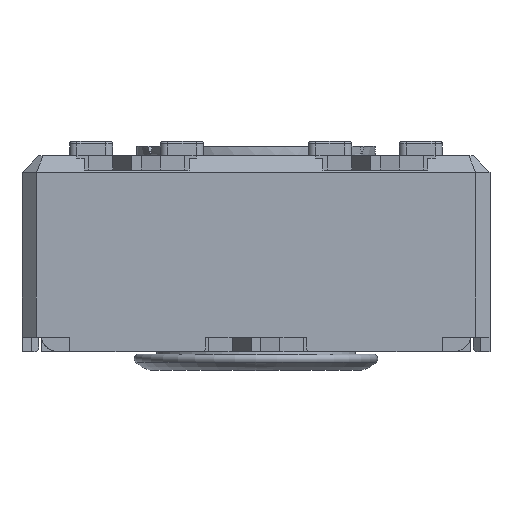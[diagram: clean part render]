
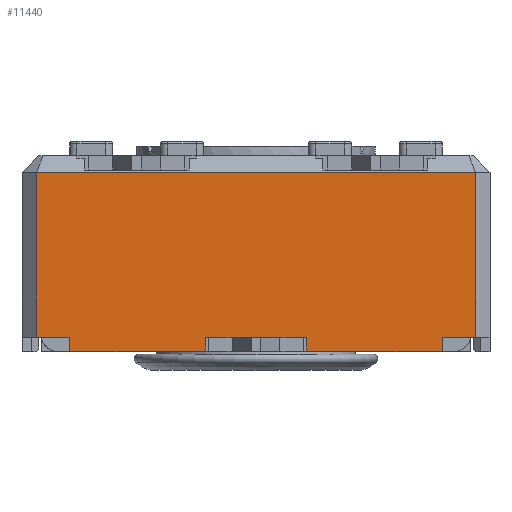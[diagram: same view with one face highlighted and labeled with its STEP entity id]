
A CAD part, front view. The second image highlights one B-rep face of the part: STEP entity #11440.
In plain terms, the highlighted planar face has unit normal (0, -1, 0).
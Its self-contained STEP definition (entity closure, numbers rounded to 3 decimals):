
#1021=FACE_OUTER_BOUND('',#1627,.T.);
#1627=EDGE_LOOP('',(#10196,#10197,#10198,#10199,#10200,#10201,#10202,#10203,
#10204,#10205,#10206,#10207,#10208,#10209,#10210,#10211));
#2140=LINE('',#16618,#3475);
#2241=LINE('',#16833,#3576);
#2247=LINE('',#16845,#3582);
#2255=LINE('',#16861,#3590);
#2261=LINE('',#16872,#3596);
#2453=LINE('',#17447,#3788);
#2459=LINE('',#17457,#3794);
#2462=LINE('',#17464,#3797);
#2475=LINE('',#17489,#3810);
#2531=LINE('',#17597,#3866);
#2533=LINE('',#17602,#3868);
#2535=LINE('',#17605,#3870);
#2537=LINE('',#17610,#3872);
#2719=LINE('',#18049,#4054);
#2962=LINE('',#18610,#4297);
#2964=LINE('',#18617,#4299);
#3475=VECTOR('',#13465,10.);
#3576=VECTOR('',#13644,10.);
#3582=VECTOR('',#13650,10.);
#3590=VECTOR('',#13660,10.);
#3596=VECTOR('',#13666,10.);
#3788=VECTOR('',#14188,10.);
#3794=VECTOR('',#14196,10.);
#3797=VECTOR('',#14203,10.);
#3810=VECTOR('',#14224,10.);
#3866=VECTOR('',#14324,10.);
#3868=VECTOR('',#14332,10.);
#3870=VECTOR('',#14336,10.);
#3872=VECTOR('',#14344,10.);
#4054=VECTOR('',#14762,10.);
#4297=VECTOR('',#15301,10.);
#4299=VECTOR('',#15313,10.);
#4755=VERTEX_POINT('',#16612);
#4756=VERTEX_POINT('',#16616);
#4831=VERTEX_POINT('',#16832);
#4836=VERTEX_POINT('',#16842);
#4837=VERTEX_POINT('',#16844);
#4843=VERTEX_POINT('',#16858);
#4844=VERTEX_POINT('',#16860);
#4849=VERTEX_POINT('',#16870);
#5012=VERTEX_POINT('',#17445);
#5013=VERTEX_POINT('',#17446);
#5016=VERTEX_POINT('',#17455);
#5017=VERTEX_POINT('',#17462);
#5018=VERTEX_POINT('',#17463);
#5026=VERTEX_POINT('',#17488);
#5170=VERTEX_POINT('',#18046);
#5171=VERTEX_POINT('',#18048);
#5987=EDGE_CURVE('',#4755,#4756,#2140,.T.);
#6094=EDGE_CURVE('',#4831,#4755,#2241,.T.);
#6100=EDGE_CURVE('',#4837,#4836,#2247,.T.);
#6108=EDGE_CURVE('',#4844,#4843,#2255,.T.);
#6114=EDGE_CURVE('',#4756,#4849,#2261,.T.);
#6383=EDGE_CURVE('',#5012,#5013,#2453,.T.);
#6389=EDGE_CURVE('',#5012,#5016,#2459,.T.);
#6392=EDGE_CURVE('',#5017,#5018,#2462,.T.);
#6405=EDGE_CURVE('',#5026,#5018,#2475,.T.);
#6461=EDGE_CURVE('',#4831,#5017,#2531,.T.);
#6463=EDGE_CURVE('',#4836,#5026,#2533,.T.);
#6465=EDGE_CURVE('',#4844,#5016,#2535,.T.);
#6467=EDGE_CURVE('',#4849,#5013,#2537,.T.);
#6682=EDGE_CURVE('',#5170,#5171,#2719,.T.);
#6961=EDGE_CURVE('',#5171,#4843,#2962,.T.);
#6963=EDGE_CURVE('',#5170,#4837,#2964,.T.);
#10196=ORIENTED_EDGE('',*,*,#6383,.F.);
#10197=ORIENTED_EDGE('',*,*,#6389,.T.);
#10198=ORIENTED_EDGE('',*,*,#6465,.F.);
#10199=ORIENTED_EDGE('',*,*,#6108,.T.);
#10200=ORIENTED_EDGE('',*,*,#6961,.F.);
#10201=ORIENTED_EDGE('',*,*,#6682,.F.);
#10202=ORIENTED_EDGE('',*,*,#6963,.T.);
#10203=ORIENTED_EDGE('',*,*,#6100,.T.);
#10204=ORIENTED_EDGE('',*,*,#6463,.T.);
#10205=ORIENTED_EDGE('',*,*,#6405,.T.);
#10206=ORIENTED_EDGE('',*,*,#6392,.F.);
#10207=ORIENTED_EDGE('',*,*,#6461,.F.);
#10208=ORIENTED_EDGE('',*,*,#6094,.T.);
#10209=ORIENTED_EDGE('',*,*,#5987,.T.);
#10210=ORIENTED_EDGE('',*,*,#6114,.T.);
#10211=ORIENTED_EDGE('',*,*,#6467,.T.);
#10675=PLANE('',#12300);
#11440=ADVANCED_FACE('',(#1021),#10675,.T.);
#12300=AXIS2_PLACEMENT_3D('',#18618,#15314,#15315);
#13465=DIRECTION('',(1.,0.,0.));
#13644=DIRECTION('',(1.,0.,0.));
#13650=DIRECTION('',(1.,0.,0.));
#13660=DIRECTION('',(1.,0.,0.));
#13666=DIRECTION('',(1.,0.,0.));
#14188=DIRECTION('',(-0.707,0.,0.707));
#14196=DIRECTION('',(1.,0.,0.));
#14203=DIRECTION('',(-0.707,0.,-0.707));
#14224=DIRECTION('',(1.,0.,0.));
#14324=DIRECTION('',(0.,0.,-1.));
#14332=DIRECTION('',(0.,0.,-1.));
#14336=DIRECTION('',(0.,0.,-1.));
#14344=DIRECTION('',(0.,0.,-1.));
#14762=DIRECTION('',(1.,0.,0.));
#15301=DIRECTION('',(0.,0.,-1.));
#15313=DIRECTION('',(0.,0.,-1.));
#15314=DIRECTION('center_axis',(0.,-1.,0.));
#15315=DIRECTION('ref_axis',(0.,0.,-1.));
#16612=CARTESIAN_POINT('',(-27.448,-17.99,-3.8));
#16616=CARTESIAN_POINT('',(-25.448,-17.99,-3.8));
#16618=CARTESIAN_POINT('',(-21.848,-17.99,-3.8));
#16832=CARTESIAN_POINT('',(-27.498,-17.99,-3.8));
#16833=CARTESIAN_POINT('',(-21.848,-17.99,-3.8));
#16842=CARTESIAN_POINT('',(-30.348,-17.99,-3.8));
#16844=CARTESIAN_POINT('',(-31.048,-17.99,-3.8));
#16845=CARTESIAN_POINT('',(-21.848,-17.99,-3.8));
#16858=CARTESIAN_POINT('',(-21.848,-17.99,-3.8));
#16860=CARTESIAN_POINT('',(-22.548,-17.99,-3.8));
#16861=CARTESIAN_POINT('',(-21.848,-17.99,-3.8));
#16870=CARTESIAN_POINT('',(-25.398,-17.99,-3.8));
#16872=CARTESIAN_POINT('',(-21.848,-17.99,-3.8));
#17445=CARTESIAN_POINT('',(-25.348,-17.99,-4.1));
#17446=CARTESIAN_POINT('',(-25.398,-17.99,-4.05));
#17447=CARTESIAN_POINT('',(-27.81,-17.99,-1.637));
#17455=CARTESIAN_POINT('',(-22.548,-17.99,-4.1));
#17457=CARTESIAN_POINT('',(-21.848,-17.99,-4.1));
#17462=CARTESIAN_POINT('',(-27.498,-17.99,-4.05));
#17463=CARTESIAN_POINT('',(-27.548,-17.99,-4.1));
#17464=CARTESIAN_POINT('',(-27.385,-17.99,-3.938));
#17488=CARTESIAN_POINT('',(-30.348,-17.99,-4.1));
#17489=CARTESIAN_POINT('',(-21.848,-17.99,-4.1));
#17597=CARTESIAN_POINT('',(-27.498,-17.99,-3.8));
#17602=CARTESIAN_POINT('',(-30.348,-17.99,-3.8));
#17605=CARTESIAN_POINT('',(-22.548,-17.99,-3.8));
#17610=CARTESIAN_POINT('',(-25.398,-17.99,-3.8));
#18046=CARTESIAN_POINT('',(-31.048,-17.99,-0.35));
#18048=CARTESIAN_POINT('',(-21.848,-17.99,-0.35));
#18049=CARTESIAN_POINT('',(-28.748,-17.99,-0.35));
#18610=CARTESIAN_POINT('',(-21.848,-17.99,0.));
#18617=CARTESIAN_POINT('',(-31.048,-17.99,0.));
#18618=CARTESIAN_POINT('Origin',(-31.048,-17.99,0.));
